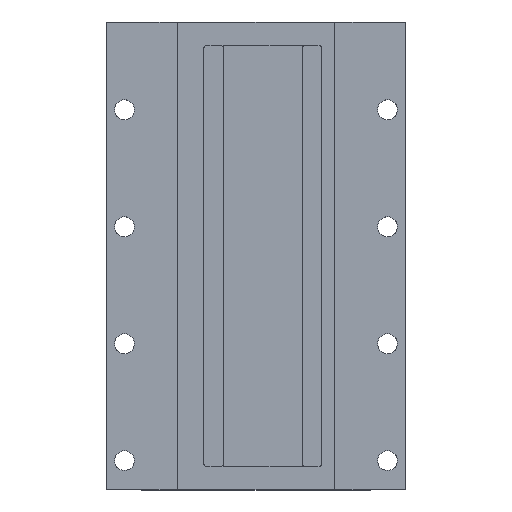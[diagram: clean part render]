
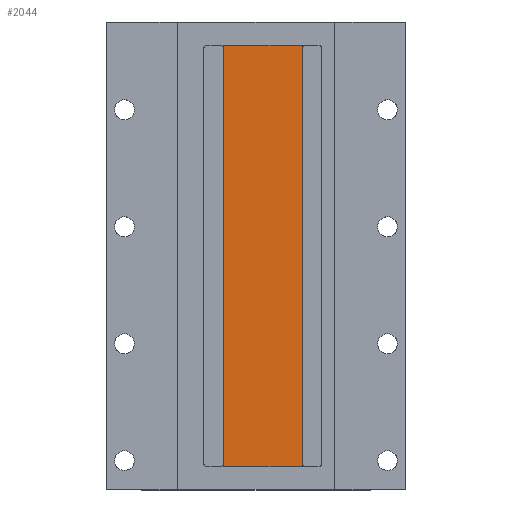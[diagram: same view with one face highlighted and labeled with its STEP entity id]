
A CAD part, top view. The second image highlights one B-rep face of the part: STEP entity #2044.
In plain terms, the highlighted planar face has unit normal (0, 0, 1).
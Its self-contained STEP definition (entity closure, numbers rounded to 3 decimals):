
#161=PLANE('',#2340);
#257=FACE_OUTER_BOUND('',#393,.T.);
#393=EDGE_LOOP('',(#1631,#1632,#1633,#1634));
#545=LINE('',#3407,#709);
#547=LINE('',#3411,#711);
#549=LINE('',#3415,#713);
#551=LINE('',#3418,#715);
#709=VECTOR('',#2771,10.);
#711=VECTOR('',#2775,10.);
#713=VECTOR('',#2779,10.);
#715=VECTOR('',#2783,10.);
#996=VERTEX_POINT('',#3404);
#997=VERTEX_POINT('',#3406);
#998=VERTEX_POINT('',#3410);
#999=VERTEX_POINT('',#3414);
#1224=EDGE_CURVE('',#997,#996,#545,.T.);
#1226=EDGE_CURVE('',#998,#997,#547,.T.);
#1228=EDGE_CURVE('',#999,#998,#549,.T.);
#1230=EDGE_CURVE('',#996,#999,#551,.T.);
#1631=ORIENTED_EDGE('',*,*,#1230,.T.);
#1632=ORIENTED_EDGE('',*,*,#1228,.T.);
#1633=ORIENTED_EDGE('',*,*,#1226,.T.);
#1634=ORIENTED_EDGE('',*,*,#1224,.T.);
#2044=ADVANCED_FACE('',(#257),#161,.T.);
#2340=AXIS2_PLACEMENT_3D('',#3419,#2784,#2785);
#2771=DIRECTION('',(0.,-1.,0.));
#2775=DIRECTION('',(-1.,0.,0.));
#2779=DIRECTION('',(0.,1.,0.));
#2783=DIRECTION('',(1.,0.,0.));
#2784=DIRECTION('center_axis',(0.,0.,1.));
#2785=DIRECTION('ref_axis',(1.,0.,0.));
#3404=CARTESIAN_POINT('',(19.933,4.,10.));
#3406=CARTESIAN_POINT('',(19.933,76.,10.));
#3407=CARTESIAN_POINT('',(19.933,76.,10.));
#3410=CARTESIAN_POINT('',(33.433,76.,10.));
#3411=CARTESIAN_POINT('',(33.433,76.,10.));
#3414=CARTESIAN_POINT('',(33.433,4.,10.));
#3415=CARTESIAN_POINT('',(33.433,4.,10.));
#3418=CARTESIAN_POINT('',(19.933,4.,10.));
#3419=CARTESIAN_POINT('Origin',(26.683,40.,10.));
